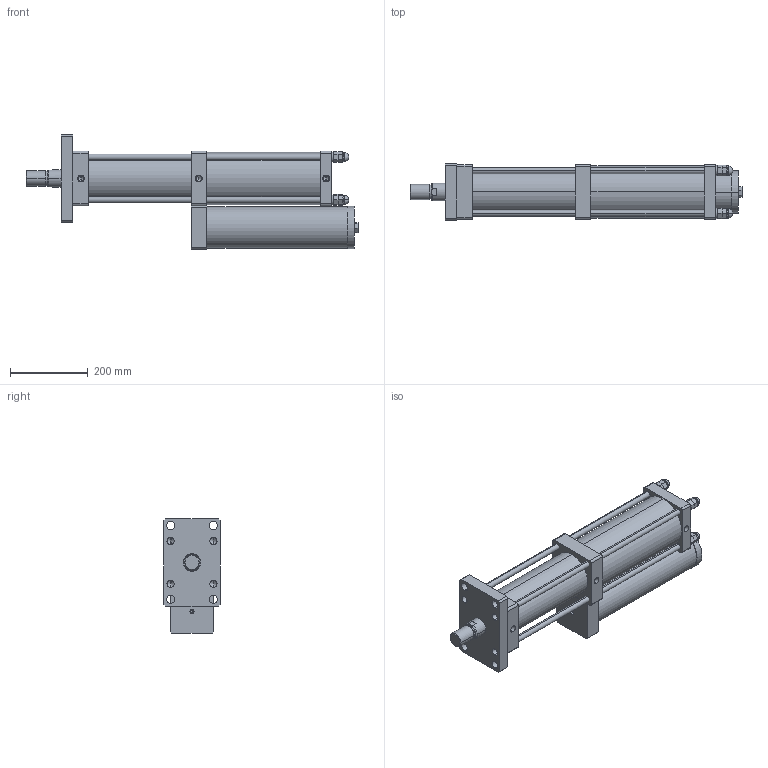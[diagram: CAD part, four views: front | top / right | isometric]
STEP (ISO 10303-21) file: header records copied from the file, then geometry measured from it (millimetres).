
FILE_DESCRIPTION (( 'STEP AP203' ), '1' );
FILE_NAME ('MPT-100-200-15-13T.STEP', '2016-03-28T10:21:57', ( 'WIN' ), ( '' ), 'SwSTEP 2.0', 'SolidWorks 2014', '' );
FILE_SCHEMA (( 'CONFIG_CONTROL_DESIGN' ));
Length unit declared in the file: millimetre
Products named in the file (1): MPT-100-200-15-13T
Bounding box: 853 x 145 x 294.5 mm (x, y, z)
Volume: 14359194.5 mm3; surface area: 853002.8 mm2
Topology: 13 solids, 13 shells, 400 faces, 980 edges, 555 vertices
Faces by surface type: plane 188, cylinder 80, torus 48, bspline 48, cone 36
Entity records: 12751 total; most frequent: CARTESIAN_POINT 3688, DIRECTION 1936, ORIENTED_EDGE 1812, EDGE_CURVE 906, AXIS2_PLACEMENT_3D 727, VERTEX_POINT 555, LINE 482, VECTOR 482
